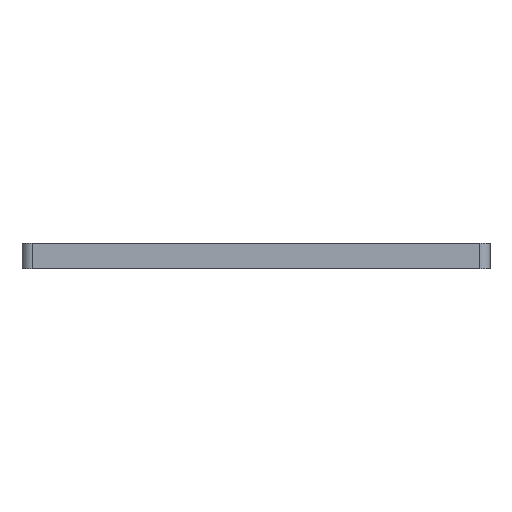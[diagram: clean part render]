
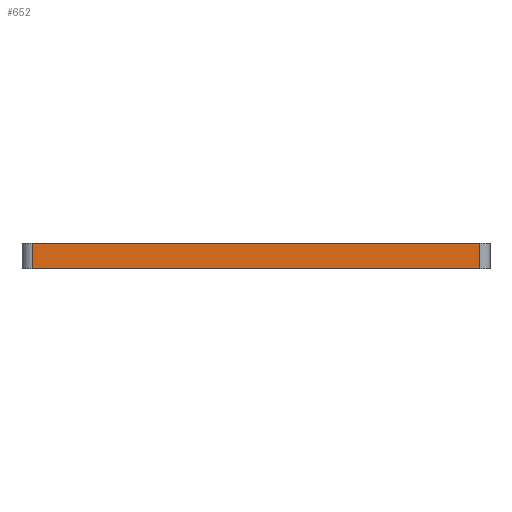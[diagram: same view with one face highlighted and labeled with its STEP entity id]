
A CAD part, front view. The second image highlights one B-rep face of the part: STEP entity #652.
In plain terms, the highlighted planar face has unit normal (0, -1, 0).
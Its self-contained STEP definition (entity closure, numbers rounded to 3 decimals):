
#14 = LINE ( 'NONE', #328, #535 ) ;
#90 = CARTESIAN_POINT ( 'NONE',  ( -17.346, -42.16, 0. ) ) ;
#99 = CARTESIAN_POINT ( 'NONE',  ( -17.346, -42.16, 2.5 ) ) ;
#100 = CARTESIAN_POINT ( 'NONE',  ( 26.154, -42.16, 0. ) ) ;
#120 = LINE ( 'NONE', #100, #519 ) ;
#141 = DIRECTION ( 'NONE',  ( 0., 0., -1. ) ) ;
#207 = CARTESIAN_POINT ( 'NONE',  ( 26.154, -42.16, 2.5 ) ) ;
#258 = EDGE_CURVE ( 'NONE', #784, #1064, #556, .T. ) ;
#279 = VECTOR ( 'NONE', #332, 1000. ) ;
#293 = ORIENTED_EDGE ( 'NONE', *, *, #620, .T. ) ;
#299 = CARTESIAN_POINT ( 'NONE',  ( 26.154, -42.16, 2.5 ) ) ;
#315 = CARTESIAN_POINT ( 'NONE',  ( 26.154, -42.16, 2.5 ) ) ;
#328 = CARTESIAN_POINT ( 'NONE',  ( -17.346, -42.16, 2.5 ) ) ;
#331 = ORIENTED_EDGE ( 'NONE', *, *, #916, .T. ) ;
#332 = DIRECTION ( 'NONE',  ( 0., 0., -1. ) ) ;
#336 = VERTEX_POINT ( 'NONE', #90 ) ;
#363 = FACE_OUTER_BOUND ( 'NONE', #557, .T. ) ;
#393 = PLANE ( 'NONE',  #969 ) ;
#453 = VERTEX_POINT ( 'NONE', #99 ) ;
#519 = VECTOR ( 'NONE', #618, 1000. ) ;
#535 = VECTOR ( 'NONE', #141, 1000. ) ;
#556 = LINE ( 'NONE', #207, #279 ) ;
#557 = EDGE_LOOP ( 'NONE', ( #331, #868, #947, #293 ) ) ;
#566 = CARTESIAN_POINT ( 'NONE',  ( 26.154, -42.16, 2.5 ) ) ;
#600 = LINE ( 'NONE', #566, #694 ) ;
#618 = DIRECTION ( 'NONE',  ( 1., 0., 0. ) ) ;
#620 = EDGE_CURVE ( 'NONE', #453, #336, #14, .T. ) ;
#652 = ADVANCED_FACE ( 'NONE', ( #363 ), #393, .F. ) ;
#694 = VECTOR ( 'NONE', #925, 1000. ) ;
#784 = VERTEX_POINT ( 'NONE', #315 ) ;
#868 = ORIENTED_EDGE ( 'NONE', *, *, #258, .F. ) ;
#907 = EDGE_CURVE ( 'NONE', #453, #784, #600, .T. ) ;
#916 = EDGE_CURVE ( 'NONE', #336, #1064, #120, .T. ) ;
#925 = DIRECTION ( 'NONE',  ( 1., 0., 0. ) ) ;
#929 = CARTESIAN_POINT ( 'NONE',  ( 26.154, -42.16, 0. ) ) ;
#942 = DIRECTION ( 'NONE',  ( -1., 0., 0. ) ) ;
#947 = ORIENTED_EDGE ( 'NONE', *, *, #907, .F. ) ;
#969 = AXIS2_PLACEMENT_3D ( 'NONE', #299, #980, #942 ) ;
#980 = DIRECTION ( 'NONE',  ( 0., 1., 0. ) ) ;
#1064 = VERTEX_POINT ( 'NONE', #929 ) ;
